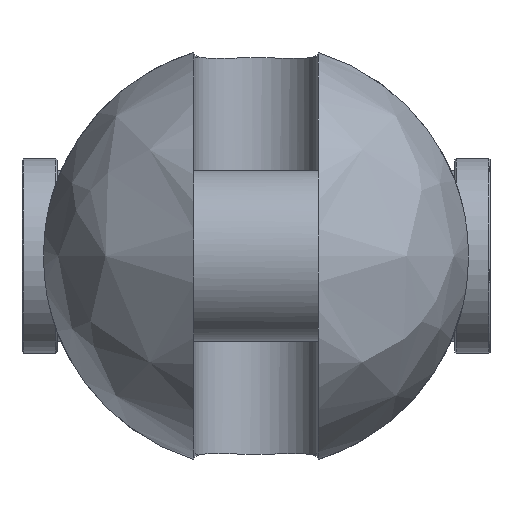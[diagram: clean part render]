
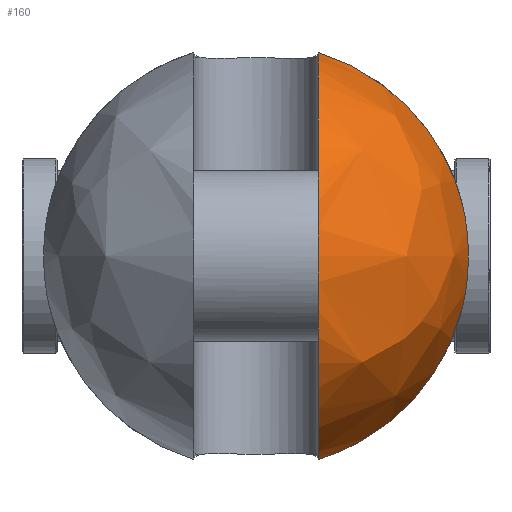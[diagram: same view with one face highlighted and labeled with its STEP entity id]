
A CAD part, left-side view. The second image highlights one B-rep face of the part: STEP entity #160.
In plain terms, the highlighted free-form (B-spline) face has degree [2, 2] with [9, 5] control points.
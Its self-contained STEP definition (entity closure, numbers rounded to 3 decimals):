
#160=ADVANCED_FACE('',(#285),#2142,.T.);
#285=FACE_OUTER_BOUND('',#429,.T.);
#429=EDGE_LOOP('',(#1054,#1055,#1056,#1057));
#1054=ORIENTED_EDGE('',*,*,#1395,.T.);
#1055=ORIENTED_EDGE('',*,*,#1419,.F.);
#1056=ORIENTED_EDGE('',*,*,#1431,.T.);
#1057=ORIENTED_EDGE('',*,*,#1411,.F.);
#1395=EDGE_CURVE('',#1990,#1989,#1755,.T.);
#1411=EDGE_CURVE('',#1990,#2002,#1765,.T.);
#1419=EDGE_CURVE('',#2009,#1989,#1766,.T.);
#1431=EDGE_CURVE('',#2009,#2002,#1591,.T.);
#1591=B_SPLINE_CURVE_WITH_KNOTS('',3,(#5484,#5485,#5486,#5487,#5488,#5489,
#5490,#5491,#5492,#5493,#5494,#5495,#5496,#5497),.UNSPECIFIED.,.F.,.F.,
(4,2,2,2,2,2,4),(0.,3.967,10.909,17.852,
24.794,31.737,35.704),.UNSPECIFIED.);
#1755=(
BOUNDED_CURVE()
B_SPLINE_CURVE(2,(#5252,#5253,#5254,#5255,#5256),.UNSPECIFIED.,.F.,.F.)
B_SPLINE_CURVE_WITH_KNOTS((3,2,3),(-216.36,-108.18,0.),
 .UNSPECIFIED.)
CURVE()
GEOMETRIC_REPRESENTATION_ITEM()
RATIONAL_B_SPLINE_CURVE((1.,0.707,1.,0.707,1.))
REPRESENTATION_ITEM('')
);
#1765=(
BOUNDED_CURVE()
B_SPLINE_CURVE(2,(#5354,#5355,#5356),.UNSPECIFIED.,.F.,.F.)
B_SPLINE_CURVE_WITH_KNOTS((3,3),(0.,74.724),.UNSPECIFIED.)
CURVE()
GEOMETRIC_REPRESENTATION_ITEM()
RATIONAL_B_SPLINE_CURVE((1.,0.868,1.))
REPRESENTATION_ITEM('')
);
#1766=(
BOUNDED_CURVE()
B_SPLINE_CURVE(2,(#5411,#5412,#5413),.UNSPECIFIED.,.F.,.F.)
B_SPLINE_CURVE_WITH_KNOTS((3,3),(0.,74.724),.UNSPECIFIED.)
CURVE()
GEOMETRIC_REPRESENTATION_ITEM()
RATIONAL_B_SPLINE_CURVE((1.,0.868,1.))
REPRESENTATION_ITEM('')
);
#1989=VERTEX_POINT('',#5104);
#1990=VERTEX_POINT('',#5105);
#2002=VERTEX_POINT('',#5117);
#2009=VERTEX_POINT('',#5124);
#2142=(
BOUNDED_SURFACE()
B_SPLINE_SURFACE(2,2,((#4818,#4819,#4820,#4821,#4822),(#4823,#4824,#4825,
#4826,#4827),(#4828,#4829,#4830,#4831,#4832),(#4833,#4834,#4835,#4836,#4837),
(#4838,#4839,#4840,#4841,#4842),(#4843,#4844,#4845,#4846,#4847),(#4848,
#4849,#4850,#4851,#4852),(#4853,#4854,#4855,#4856,#4857),(#4858,#4859,#4860,
#4861,#4862)),.UNSPECIFIED.,.T.,.F.,.F.)
B_SPLINE_SURFACE_WITH_KNOTS((3,2,2,2,3),(3,2,3),(0.,113.097,226.195,
339.292,452.389),(0.,113.097,226.195),
 .UNSPECIFIED.)
GEOMETRIC_REPRESENTATION_ITEM()
RATIONAL_B_SPLINE_SURFACE(((1.,0.707,1.,0.707,1.),
(0.707,0.5,0.707,0.5,0.707),(1.,0.707,
1.,0.707,1.),(0.707,0.5,0.707,0.5,0.707),
(1.,0.707,1.,0.707,1.),(0.707,0.5,0.707,
0.5,0.707),(1.,0.707,1.,0.707,1.),(0.707,
0.5,0.707,0.5,0.707),(1.,0.707,1.,0.707,
1.)))
REPRESENTATION_ITEM('')
SURFACE()
);
#4818=CARTESIAN_POINT('',(-101.5,0.,0.));
#4819=CARTESIAN_POINT('',(-101.5,72.,0.));
#4820=CARTESIAN_POINT('',(-29.5,72.,0.));
#4821=CARTESIAN_POINT('',(42.5,72.,0.));
#4822=CARTESIAN_POINT('',(42.5,0.,0.));
#4823=CARTESIAN_POINT('',(-101.5,0.,0.));
#4824=CARTESIAN_POINT('',(-101.5,72.,72.));
#4825=CARTESIAN_POINT('',(-29.5,72.,72.));
#4826=CARTESIAN_POINT('',(42.5,72.,72.));
#4827=CARTESIAN_POINT('',(42.5,0.,0.));
#4828=CARTESIAN_POINT('',(-101.5,0.,0.));
#4829=CARTESIAN_POINT('',(-101.5,0.,72.));
#4830=CARTESIAN_POINT('',(-29.5,0.,72.));
#4831=CARTESIAN_POINT('',(42.5,0.,72.));
#4832=CARTESIAN_POINT('',(42.5,0.,0.));
#4833=CARTESIAN_POINT('',(-101.5,0.,0.));
#4834=CARTESIAN_POINT('',(-101.5,-72.,72.));
#4835=CARTESIAN_POINT('',(-29.5,-72.,72.));
#4836=CARTESIAN_POINT('',(42.5,-72.,72.));
#4837=CARTESIAN_POINT('',(42.5,0.,0.));
#4838=CARTESIAN_POINT('',(-101.5,0.,0.));
#4839=CARTESIAN_POINT('',(-101.5,-72.,0.));
#4840=CARTESIAN_POINT('',(-29.5,-72.,0.));
#4841=CARTESIAN_POINT('',(42.5,-72.,0.));
#4842=CARTESIAN_POINT('',(42.5,0.,0.));
#4843=CARTESIAN_POINT('',(-101.5,0.,0.));
#4844=CARTESIAN_POINT('',(-101.5,-72.,-72.));
#4845=CARTESIAN_POINT('',(-29.5,-72.,-72.));
#4846=CARTESIAN_POINT('',(42.5,-72.,-72.));
#4847=CARTESIAN_POINT('',(42.5,0.,0.));
#4848=CARTESIAN_POINT('',(-101.5,0.,0.));
#4849=CARTESIAN_POINT('',(-101.5,0.,-72.));
#4850=CARTESIAN_POINT('',(-29.5,0.,-72.));
#4851=CARTESIAN_POINT('',(42.5,0.,-72.));
#4852=CARTESIAN_POINT('',(42.5,0.,0.));
#4853=CARTESIAN_POINT('',(-101.5,0.,0.));
#4854=CARTESIAN_POINT('',(-101.5,72.,-72.));
#4855=CARTESIAN_POINT('',(-29.5,72.,-72.));
#4856=CARTESIAN_POINT('',(42.5,72.,-72.));
#4857=CARTESIAN_POINT('',(42.5,0.,0.));
#4858=CARTESIAN_POINT('',(-101.5,0.,0.));
#4859=CARTESIAN_POINT('',(-101.5,72.,0.));
#4860=CARTESIAN_POINT('',(-29.5,72.,0.));
#4861=CARTESIAN_POINT('',(42.5,72.,0.));
#4862=CARTESIAN_POINT('',(42.5,0.,0.));
#5104=CARTESIAN_POINT('',(-29.5,-21.,-68.869));
#5105=CARTESIAN_POINT('',(-29.5,-21.,68.869));
#5117=CARTESIAN_POINT('',(-29.5,-69.987,16.904));
#5124=CARTESIAN_POINT('',(-29.5,-69.987,-16.904));
#5252=CARTESIAN_POINT('',(-29.5,-21.,68.869));
#5253=CARTESIAN_POINT('',(-98.369,-21.,68.869));
#5254=CARTESIAN_POINT('',(-98.369,-21.,0.));
#5255=CARTESIAN_POINT('',(-98.369,-21.,-68.869));
#5256=CARTESIAN_POINT('',(-29.5,-21.,-68.869));
#5354=CARTESIAN_POINT('',(-29.5,-21.,68.869));
#5355=CARTESIAN_POINT('',(-29.5,-60.333,56.876));
#5356=CARTESIAN_POINT('',(-29.5,-69.987,16.904));
#5411=CARTESIAN_POINT('',(-29.5,-69.987,-16.904));
#5412=CARTESIAN_POINT('',(-29.5,-60.333,-56.876));
#5413=CARTESIAN_POINT('',(-29.5,-21.,-68.869));
#5484=CARTESIAN_POINT('',(-29.5,-69.987,-16.904));
#5485=CARTESIAN_POINT('',(-30.15,-70.261,-15.77));
#5486=CARTESIAN_POINT('',(-30.739,-70.508,-14.589));
#5487=CARTESIAN_POINT('',(-32.168,-71.104,-11.25));
#5488=CARTESIAN_POINT('',(-32.863,-71.391,-9.017));
#5489=CARTESIAN_POINT('',(-33.779,-71.769,-4.501));
#5490=CARTESIAN_POINT('',(-34.,-71.859,-2.218));
#5491=CARTESIAN_POINT('',(-34.,-71.859,2.218));
#5492=CARTESIAN_POINT('',(-33.779,-71.769,4.501));
#5493=CARTESIAN_POINT('',(-32.863,-71.391,9.017));
#5494=CARTESIAN_POINT('',(-32.168,-71.104,11.25));
#5495=CARTESIAN_POINT('',(-30.739,-70.508,14.589));
#5496=CARTESIAN_POINT('',(-30.15,-70.261,15.77));
#5497=CARTESIAN_POINT('',(-29.5,-69.987,16.904));
